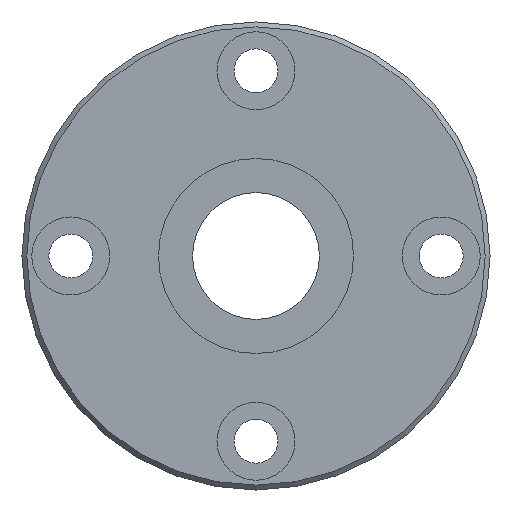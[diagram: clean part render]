
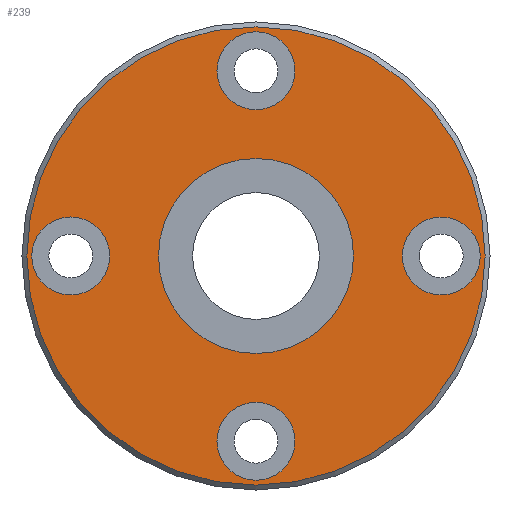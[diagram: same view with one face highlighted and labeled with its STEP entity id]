
A CAD part, left-side view. The second image highlights one B-rep face of the part: STEP entity #239.
In plain terms, the highlighted planar face has unit normal (-1, 0, 0).
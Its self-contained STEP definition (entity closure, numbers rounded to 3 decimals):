
#164=CARTESIAN_POINT('',(0.0,0.,23.5));
#165=VERTEX_POINT('',#164);
#166=CARTESIAN_POINT('',(0.0,0.0,0.0));
#167=DIRECTION('',(1.0,0.0,0.0));
#168=DIRECTION('',(0.0,0.0,-1.0));
#169=AXIS2_PLACEMENT_3D('',#166,#167,#168);
#170=CIRCLE('',#169,23.5);
#171=EDGE_CURVE('',#165,#165,#170,.T.);
#176=CARTESIAN_POINT('',(0.0,0.0,12.));
#177=DIRECTION('',(-1.0,0.0,0.0));
#178=DIRECTION('',(0.0,0.0,1.0));
#179=AXIS2_PLACEMENT_3D('',#176,#177,#178);
#180=PLANE('',#179);
#181=ORIENTED_EDGE('',*,*,#171,.F.);
#182=EDGE_LOOP('',(#181));
#183=FACE_OUTER_BOUND('',#182,.T.);
#184=CARTESIAN_POINT('',(0.0,0.0,10.));
#185=VERTEX_POINT('',#184);
#186=CARTESIAN_POINT('',(0.0,0.0,0.0));
#187=DIRECTION('',(-1.0,0.0,0.0));
#188=DIRECTION('',(0.0,0.0,1.0));
#189=AXIS2_PLACEMENT_3D('',#186,#187,#188);
#190=CIRCLE('',#189,10.);
#191=EDGE_CURVE('',#185,#185,#190,.T.);
#192=ORIENTED_EDGE('',*,*,#191,.F.);
#193=EDGE_LOOP('',(#192));
#194=FACE_BOUND('',#193,.T.);
#195=CARTESIAN_POINT('',(0.0,-15.0,0.));
#196=VERTEX_POINT('',#195);
#197=CARTESIAN_POINT('',(0.0,-19.0,0.));
#198=DIRECTION('',(1.0,0.0,0.0));
#199=DIRECTION('',(0.0,1.0,0.0));
#200=AXIS2_PLACEMENT_3D('',#197,#198,#199);
#201=CIRCLE('',#200,4.0);
#202=EDGE_CURVE('',#196,#196,#201,.T.);
#203=ORIENTED_EDGE('',*,*,#202,.T.);
#204=EDGE_LOOP('',(#203));
#205=FACE_BOUND('',#204,.T.);
#206=CARTESIAN_POINT('',(0.0,23.,0.));
#207=VERTEX_POINT('',#206);
#208=CARTESIAN_POINT('',(0.0,19.0,0.));
#209=DIRECTION('',(1.0,0.0,0.0));
#210=DIRECTION('',(0.0,1.0,0.0));
#211=AXIS2_PLACEMENT_3D('',#208,#209,#210);
#212=CIRCLE('',#211,4.0);
#213=EDGE_CURVE('',#207,#207,#212,.T.);
#214=ORIENTED_EDGE('',*,*,#213,.T.);
#215=EDGE_LOOP('',(#214));
#216=FACE_BOUND('',#215,.T.);
#217=CARTESIAN_POINT('',(0.0,4.,19.0));
#218=VERTEX_POINT('',#217);
#219=CARTESIAN_POINT('',(0.0,0.,19.0));
#220=DIRECTION('',(1.0,0.0,0.0));
#221=DIRECTION('',(0.0,1.0,0.0));
#222=AXIS2_PLACEMENT_3D('',#219,#220,#221);
#223=CIRCLE('',#222,4.0);
#224=EDGE_CURVE('',#218,#218,#223,.T.);
#225=ORIENTED_EDGE('',*,*,#224,.T.);
#226=EDGE_LOOP('',(#225));
#227=FACE_BOUND('',#226,.T.);
#228=CARTESIAN_POINT('',(0.0,4.,-19.0));
#229=VERTEX_POINT('',#228);
#230=CARTESIAN_POINT('',(0.0,0.,-19.0));
#231=DIRECTION('',(1.0,0.0,0.0));
#232=DIRECTION('',(0.0,1.0,0.0));
#233=AXIS2_PLACEMENT_3D('',#230,#231,#232);
#234=CIRCLE('',#233,4.0);
#235=EDGE_CURVE('',#229,#229,#234,.T.);
#236=ORIENTED_EDGE('',*,*,#235,.T.);
#237=EDGE_LOOP('',(#236));
#238=FACE_BOUND('',#237,.T.);
#239=ADVANCED_FACE('',(#183,#194,#205,#216,#227,#238),#180,.T.);
